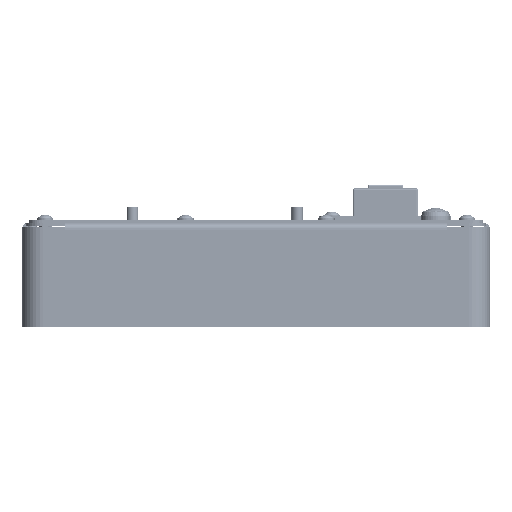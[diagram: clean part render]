
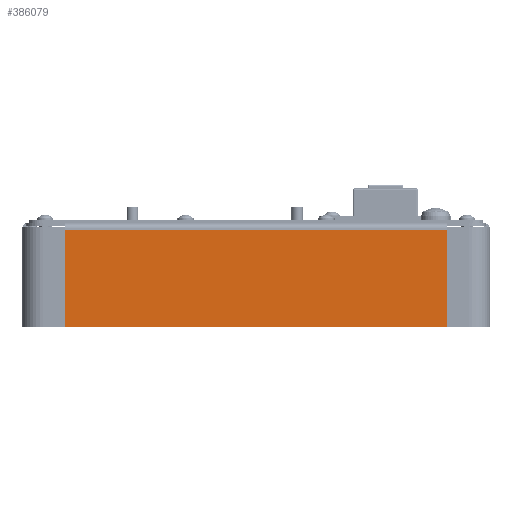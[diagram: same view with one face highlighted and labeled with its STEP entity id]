
A CAD part, left-side view. The second image highlights one B-rep face of the part: STEP entity #386079.
In plain terms, the highlighted planar face has unit normal (-1, 0, 0).
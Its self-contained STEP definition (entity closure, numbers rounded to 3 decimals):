
#37150 = VECTOR ( 'NONE', #174900, 1000. ) ;
#66110 = LINE ( 'NONE', #576067, #364895 ) ;
#71327 = FACE_OUTER_BOUND ( 'NONE', #445909, .T. ) ;
#84716 = ORIENTED_EDGE ( 'NONE', *, *, #294311, .F. ) ;
#102858 = ORIENTED_EDGE ( 'NONE', *, *, #454821, .F. ) ;
#115256 = VERTEX_POINT ( 'NONE', #575062 ) ;
#128477 = PLANE ( 'NONE',  #660868 ) ;
#141247 = ORIENTED_EDGE ( 'NONE', *, *, #611326, .T. ) ;
#174900 = DIRECTION ( 'NONE',  ( 0., 0., 1. ) ) ;
#183014 = LINE ( 'NONE', #404567, #564875 ) ;
#250728 = DIRECTION ( 'NONE',  ( 0., 0., -1. ) ) ;
#289363 = CARTESIAN_POINT ( 'NONE',  ( -217.5, 0., 0. ) ) ;
#294311 = EDGE_CURVE ( 'NONE', #605083, #297620, #614470, .T. ) ;
#297620 = VERTEX_POINT ( 'NONE', #512747 ) ;
#314897 = CARTESIAN_POINT ( 'NONE',  ( -217.5, -115.8, -63. ) ) ;
#364895 = VECTOR ( 'NONE', #250728, 1000. ) ;
#386079 = ADVANCED_FACE ( 'NONE', ( #71327 ), #128477, .T. ) ;
#404567 = CARTESIAN_POINT ( 'NONE',  ( -217.5, 0., -4. ) ) ;
#443089 = CARTESIAN_POINT ( 'NONE',  ( -217.5, 115.8, -2. ) ) ;
#445909 = EDGE_LOOP ( 'NONE', ( #102858, #141247, #84716, #600037 ) ) ;
#454821 = EDGE_CURVE ( 'NONE', #115256, #684610, #66110, .T. ) ;
#457296 = DIRECTION ( 'NONE',  ( 0., 0., 1. ) ) ;
#461784 = VECTOR ( 'NONE', #611655, 1000. ) ;
#497385 = LINE ( 'NONE', #665294, #461784 ) ;
#507412 = DIRECTION ( 'NONE',  ( -1., 0., 0. ) ) ;
#512747 = CARTESIAN_POINT ( 'NONE',  ( -217.5, 115.8, -4. ) ) ;
#539618 = EDGE_CURVE ( 'NONE', #684610, #605083, #497385, .T. ) ;
#564875 = VECTOR ( 'NONE', #576044, 1000. ) ;
#575062 = CARTESIAN_POINT ( 'NONE',  ( -217.5, -115.8, -4. ) ) ;
#576044 = DIRECTION ( 'NONE',  ( 0., 1., 0. ) ) ;
#576067 = CARTESIAN_POINT ( 'NONE',  ( -217.5, -115.8, -63. ) ) ;
#600037 = ORIENTED_EDGE ( 'NONE', *, *, #539618, .F. ) ;
#605083 = VERTEX_POINT ( 'NONE', #615027 ) ;
#611326 = EDGE_CURVE ( 'NONE', #115256, #297620, #183014, .T. ) ;
#611655 = DIRECTION ( 'NONE',  ( 0., 1., 0. ) ) ;
#614470 = LINE ( 'NONE', #443089, #37150 ) ;
#615027 = CARTESIAN_POINT ( 'NONE',  ( -217.5, 115.8, -63. ) ) ;
#660868 = AXIS2_PLACEMENT_3D ( 'NONE', #289363, #507412, #457296 ) ;
#665294 = CARTESIAN_POINT ( 'NONE',  ( -217.5, 115.8, -63. ) ) ;
#684610 = VERTEX_POINT ( 'NONE', #314897 ) ;
